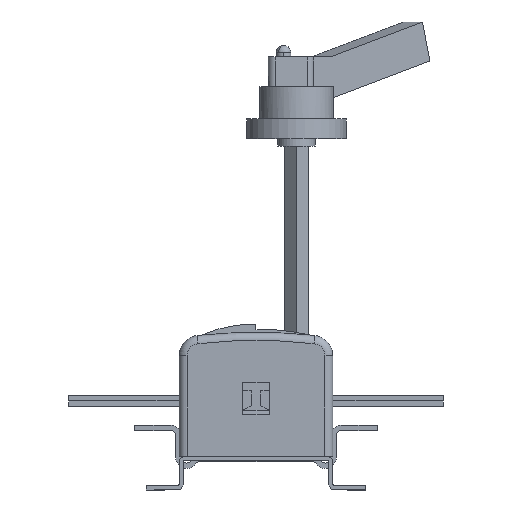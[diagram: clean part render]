
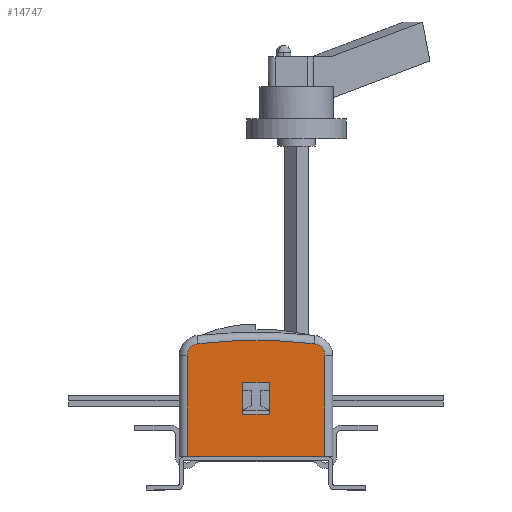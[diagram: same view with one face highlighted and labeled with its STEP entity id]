
A CAD part, left-side view. The second image highlights one B-rep face of the part: STEP entity #14747.
In plain terms, the highlighted planar face has unit normal (-1, 0, 0).
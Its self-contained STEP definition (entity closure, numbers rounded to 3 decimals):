
#727 = VERTEX_POINT ( 'NONE', #4656 ) ;
#790 = CARTESIAN_POINT ( 'NONE',  ( -249., -21., 25. ) ) ;
#984 = AXIS2_PLACEMENT_3D ( 'NONE', #1036, #6819, #14570 ) ;
#1032 = LINE ( 'NONE', #11351, #9627 ) ;
#1036 = CARTESIAN_POINT ( 'NONE',  ( -249., 72., 99.576 ) ) ;
#1276 = LINE ( 'NONE', #11022, #14502 ) ;
#1372 = VECTOR ( 'NONE', #4107, 1000. ) ;
#1580 = EDGE_CURVE ( 'NONE', #1745, #12447, #14103, .T. ) ;
#1745 = VERTEX_POINT ( 'NONE', #790 ) ;
#1763 = VECTOR ( 'NONE', #11436, 1000. ) ;
#1895 = EDGE_CURVE ( 'NONE', #1745, #11307, #1032, .T. ) ;
#2452 = VERTEX_POINT ( 'NONE', #13976 ) ;
#2519 = CARTESIAN_POINT ( 'NONE',  ( -249., -13.036, 108.516 ) ) ;
#2704 = EDGE_LOOP ( 'NONE', ( #8782, #11739, #7014, #10802 ) ) ;
#2749 = EDGE_CURVE ( 'NONE', #13443, #11307, #9690, .T. ) ;
#2924 = CIRCLE ( 'NONE', #11340, 374. ) ;
#2935 = DIRECTION ( 'NONE',  ( 0., 0., -1. ) ) ;
#3046 = DIRECTION ( 'NONE',  ( 0., 0., -1. ) ) ;
#3210 = CARTESIAN_POINT ( 'NONE',  ( -249., 40., 56. ) ) ;
#3904 = CARTESIAN_POINT ( 'NONE',  ( -249., 30., -263. ) ) ;
#3953 = LINE ( 'NONE', #14805, #1763 ) ;
#3954 = DIRECTION ( 'NONE',  ( 0., 0., -1. ) ) ;
#4045 = DIRECTION ( 'NONE',  ( 0., 0., 1. ) ) ;
#4063 = CARTESIAN_POINT ( 'NONE',  ( -249., 40., 80. ) ) ;
#4107 = DIRECTION ( 'NONE',  ( 0., -1., 0. ) ) ;
#4197 = VERTEX_POINT ( 'NONE', #13342 ) ;
#4275 = ORIENTED_EDGE ( 'NONE', *, *, #8153, .T. ) ;
#4656 = CARTESIAN_POINT ( 'NONE',  ( -249., 40., 80. ) ) ;
#4853 = CARTESIAN_POINT ( 'NONE',  ( -249., 81., 99.576 ) ) ;
#4912 = VECTOR ( 'NONE', #13390, 1000. ) ;
#5053 = FACE_OUTER_BOUND ( 'NONE', #13183, .T. ) ;
#6031 = DIRECTION ( 'NONE',  ( 0., 1., 0. ) ) ;
#6150 = CARTESIAN_POINT ( 'NONE',  ( -249., 81., 25. ) ) ;
#6289 = CARTESIAN_POINT ( 'NONE',  ( -249., -12., 99.576 ) ) ;
#6819 = DIRECTION ( 'NONE',  ( -1., 0., 0. ) ) ;
#7014 = ORIENTED_EDGE ( 'NONE', *, *, #13492, .T. ) ;
#7180 = EDGE_CURVE ( 'NONE', #2452, #13443, #7816, .T. ) ;
#7305 = ORIENTED_EDGE ( 'NONE', *, *, #11766, .T. ) ;
#7816 = CIRCLE ( 'NONE', #984, 9. ) ;
#7943 = LINE ( 'NONE', #3210, #4912 ) ;
#7953 = CARTESIAN_POINT ( 'NONE',  ( -249., 40., 56. ) ) ;
#8153 = EDGE_CURVE ( 'NONE', #12447, #13799, #14350, .T. ) ;
#8494 = DIRECTION ( 'NONE',  ( -1., 0., 0. ) ) ;
#8577 = DIRECTION ( 'NONE',  ( -1., 0., 0. ) ) ;
#8626 = CARTESIAN_POINT ( 'NONE',  ( -249., 30., -263. ) ) ;
#8782 = ORIENTED_EDGE ( 'NONE', *, *, #9715, .F. ) ;
#9170 = ORIENTED_EDGE ( 'NONE', *, *, #1580, .T. ) ;
#9270 = VERTEX_POINT ( 'NONE', #14259 ) ;
#9425 = VERTEX_POINT ( 'NONE', #7953 ) ;
#9627 = VECTOR ( 'NONE', #6031, 1000. ) ;
#9690 = LINE ( 'NONE', #13164, #14648 ) ;
#9715 = EDGE_CURVE ( 'NONE', #9425, #9270, #3953, .T. ) ;
#9879 = CARTESIAN_POINT ( 'NONE',  ( -249., -21., 99.576 ) ) ;
#10692 = AXIS2_PLACEMENT_3D ( 'NONE', #8626, #12805, #2935 ) ;
#10802 = ORIENTED_EDGE ( 'NONE', *, *, #14406, .T. ) ;
#10862 = LINE ( 'NONE', #4063, #1372 ) ;
#11018 = ORIENTED_EDGE ( 'NONE', *, *, #2749, .T. ) ;
#11022 = CARTESIAN_POINT ( 'NONE',  ( -249., 20., 56. ) ) ;
#11090 = ORIENTED_EDGE ( 'NONE', *, *, #1895, .F. ) ;
#11307 = VERTEX_POINT ( 'NONE', #6150 ) ;
#11340 = AXIS2_PLACEMENT_3D ( 'NONE', #3904, #8494, #13062 ) ;
#11351 = CARTESIAN_POINT ( 'NONE',  ( -249., 87., 25. ) ) ;
#11366 = EDGE_CURVE ( 'NONE', #727, #9425, #7943, .T. ) ;
#11436 = DIRECTION ( 'NONE',  ( 0., -1., 0. ) ) ;
#11478 = FACE_BOUND ( 'NONE', #2704, .T. ) ;
#11739 = ORIENTED_EDGE ( 'NONE', *, *, #11366, .F. ) ;
#11766 = EDGE_CURVE ( 'NONE', #13799, #2452, #2924, .T. ) ;
#12019 = PLANE ( 'NONE',  #10692 ) ;
#12020 = DIRECTION ( 'NONE',  ( 0., 0., -1. ) ) ;
#12447 = VERTEX_POINT ( 'NONE', #13102 ) ;
#12703 = VECTOR ( 'NONE', #4045, 1000. ) ;
#12748 = ORIENTED_EDGE ( 'NONE', *, *, #7180, .T. ) ;
#12805 = DIRECTION ( 'NONE',  ( 1., 0., 0. ) ) ;
#13062 = DIRECTION ( 'NONE',  ( 0., 0., -1. ) ) ;
#13102 = CARTESIAN_POINT ( 'NONE',  ( -249., -21., 99.576 ) ) ;
#13164 = CARTESIAN_POINT ( 'NONE',  ( -249., 81., 25. ) ) ;
#13183 = EDGE_LOOP ( 'NONE', ( #11090, #9170, #4275, #7305, #12748, #11018 ) ) ;
#13276 = AXIS2_PLACEMENT_3D ( 'NONE', #6289, #8577, #12020 ) ;
#13342 = CARTESIAN_POINT ( 'NONE',  ( -249., 20., 80. ) ) ;
#13390 = DIRECTION ( 'NONE',  ( 0., 0., -1. ) ) ;
#13443 = VERTEX_POINT ( 'NONE', #4853 ) ;
#13492 = EDGE_CURVE ( 'NONE', #727, #4197, #10862, .T. ) ;
#13799 = VERTEX_POINT ( 'NONE', #2519 ) ;
#13976 = CARTESIAN_POINT ( 'NONE',  ( -249., 73.036, 108.516 ) ) ;
#14103 = LINE ( 'NONE', #9879, #12703 ) ;
#14259 = CARTESIAN_POINT ( 'NONE',  ( -249., 20., 56. ) ) ;
#14350 = CIRCLE ( 'NONE', #13276, 9. ) ;
#14406 = EDGE_CURVE ( 'NONE', #4197, #9270, #1276, .T. ) ;
#14502 = VECTOR ( 'NONE', #3046, 1000. ) ;
#14570 = DIRECTION ( 'NONE',  ( 0., 0., -1. ) ) ;
#14648 = VECTOR ( 'NONE', #3954, 1000. ) ;
#14747 = ADVANCED_FACE ( 'NONE', ( #11478, #5053 ), #12019, .F. ) ;
#14805 = CARTESIAN_POINT ( 'NONE',  ( -249., 40., 56. ) ) ;
